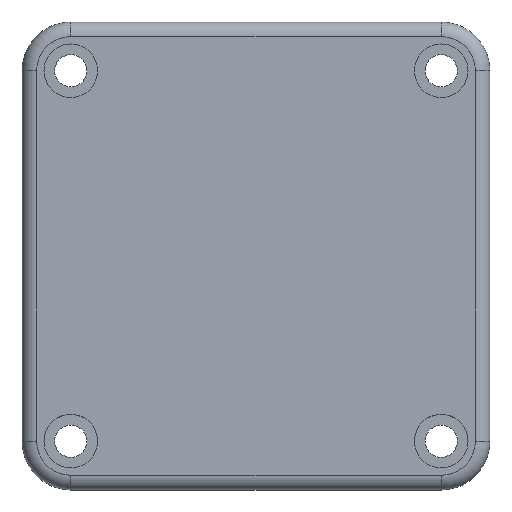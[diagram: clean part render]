
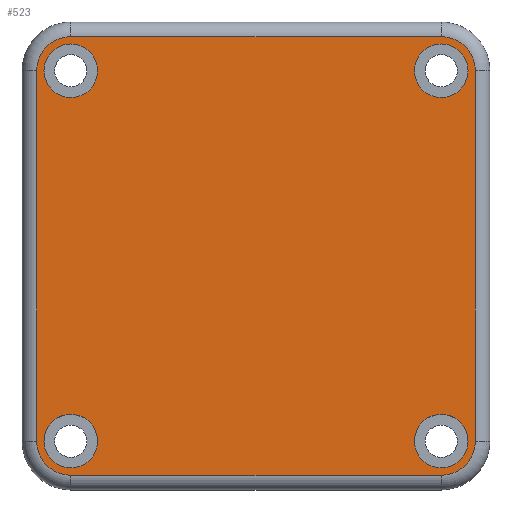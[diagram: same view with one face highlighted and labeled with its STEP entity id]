
A CAD part, top view. The second image highlights one B-rep face of the part: STEP entity #523.
In plain terms, the highlighted planar face has unit normal (0, 0, 1).
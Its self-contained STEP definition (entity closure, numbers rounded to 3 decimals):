
#16=FACE_BOUND('',#167,.T.);
#17=FACE_BOUND('',#168,.T.);
#18=FACE_BOUND('',#169,.T.);
#19=FACE_BOUND('',#170,.T.);
#32=PLANE('',#599);
#42=LINE('',#846,#72);
#44=LINE('',#858,#74);
#46=LINE('',#870,#76);
#48=LINE('',#879,#78);
#72=VECTOR('',#662,10.);
#74=VECTOR('',#676,10.);
#76=VECTOR('',#690,10.);
#78=VECTOR('',#702,10.);
#131=FACE_OUTER_BOUND('',#166,.T.);
#166=EDGE_LOOP('',(#410,#411,#412,#413,#414,#415,#416,#417));
#167=EDGE_LOOP('',(#418));
#168=EDGE_LOOP('',(#419));
#169=EDGE_LOOP('',(#420));
#170=EDGE_LOOP('',(#421));
#206=CIRCLE('',#573,7.);
#209=CIRCLE('',#578,7.);
#213=CIRCLE('',#584,7.);
#217=CIRCLE('',#590,7.);
#221=CIRCLE('',#600,5.5);
#222=CIRCLE('',#601,5.5);
#223=CIRCLE('',#602,5.5);
#224=CIRCLE('',#603,5.5);
#245=VERTEX_POINT('',#834);
#248=VERTEX_POINT('',#839);
#250=VERTEX_POINT('',#844);
#252=VERTEX_POINT('',#850);
#254=VERTEX_POINT('',#856);
#256=VERTEX_POINT('',#862);
#258=VERTEX_POINT('',#868);
#260=VERTEX_POINT('',#874);
#266=VERTEX_POINT('',#900);
#267=VERTEX_POINT('',#902);
#268=VERTEX_POINT('',#904);
#269=VERTEX_POINT('',#906);
#293=EDGE_CURVE('',#248,#245,#206,.T.);
#295=EDGE_CURVE('',#250,#248,#42,.T.);
#298=EDGE_CURVE('',#252,#250,#209,.T.);
#301=EDGE_CURVE('',#254,#252,#44,.T.);
#304=EDGE_CURVE('',#256,#254,#213,.T.);
#307=EDGE_CURVE('',#258,#256,#46,.T.);
#310=EDGE_CURVE('',#260,#258,#217,.T.);
#312=EDGE_CURVE('',#245,#260,#48,.T.);
#323=EDGE_CURVE('',#266,#266,#221,.T.);
#324=EDGE_CURVE('',#267,#267,#222,.T.);
#325=EDGE_CURVE('',#268,#268,#223,.T.);
#326=EDGE_CURVE('',#269,#269,#224,.T.);
#410=ORIENTED_EDGE('',*,*,#293,.F.);
#411=ORIENTED_EDGE('',*,*,#295,.F.);
#412=ORIENTED_EDGE('',*,*,#298,.F.);
#413=ORIENTED_EDGE('',*,*,#301,.F.);
#414=ORIENTED_EDGE('',*,*,#304,.F.);
#415=ORIENTED_EDGE('',*,*,#307,.F.);
#416=ORIENTED_EDGE('',*,*,#310,.F.);
#417=ORIENTED_EDGE('',*,*,#312,.F.);
#418=ORIENTED_EDGE('',*,*,#323,.T.);
#419=ORIENTED_EDGE('',*,*,#324,.T.);
#420=ORIENTED_EDGE('',*,*,#325,.T.);
#421=ORIENTED_EDGE('',*,*,#326,.T.);
#523=ADVANCED_FACE('',(#131,#16,#17,#18,#19),#32,.T.);
#573=AXIS2_PLACEMENT_3D('',#841,#656,#657);
#578=AXIS2_PLACEMENT_3D('',#852,#668,#669);
#584=AXIS2_PLACEMENT_3D('',#864,#682,#683);
#590=AXIS2_PLACEMENT_3D('',#876,#696,#697);
#599=AXIS2_PLACEMENT_3D('',#899,#723,#724);
#600=AXIS2_PLACEMENT_3D('',#901,#725,#726);
#601=AXIS2_PLACEMENT_3D('',#903,#727,#728);
#602=AXIS2_PLACEMENT_3D('',#905,#729,#730);
#603=AXIS2_PLACEMENT_3D('',#907,#731,#732);
#656=DIRECTION('center_axis',(0.,0.,-1.));
#657=DIRECTION('ref_axis',(0.707,0.707,0.));
#662=DIRECTION('',(1.,0.,0.));
#668=DIRECTION('center_axis',(0.,0.,-1.));
#669=DIRECTION('ref_axis',(-0.707,0.707,0.));
#676=DIRECTION('',(0.,1.,0.));
#682=DIRECTION('center_axis',(0.,0.,-1.));
#683=DIRECTION('ref_axis',(-0.707,-0.707,0.));
#690=DIRECTION('',(-1.,0.,0.));
#696=DIRECTION('center_axis',(0.,0.,-1.));
#697=DIRECTION('ref_axis',(0.707,-0.707,0.));
#702=DIRECTION('',(0.,-1.,0.));
#723=DIRECTION('center_axis',(0.,0.,1.));
#724=DIRECTION('ref_axis',(1.,0.,0.));
#725=DIRECTION('center_axis',(0.,0.,-1.));
#726=DIRECTION('ref_axis',(1.,0.,0.));
#727=DIRECTION('center_axis',(0.,0.,-1.));
#728=DIRECTION('ref_axis',(0.,-1.,0.));
#729=DIRECTION('center_axis',(0.,0.,-1.));
#730=DIRECTION('ref_axis',(-1.,0.,0.));
#731=DIRECTION('center_axis',(0.,0.,-1.));
#732=DIRECTION('ref_axis',(0.,1.,0.));
#834=CARTESIAN_POINT('',(45.,38.,12.));
#839=CARTESIAN_POINT('',(38.,45.,12.));
#841=CARTESIAN_POINT('Origin',(38.,38.,12.));
#844=CARTESIAN_POINT('',(-38.,45.,12.));
#846=CARTESIAN_POINT('',(19.,45.,12.));
#850=CARTESIAN_POINT('',(-45.,38.,12.));
#852=CARTESIAN_POINT('Origin',(-38.,38.,12.));
#856=CARTESIAN_POINT('',(-45.,-38.,12.));
#858=CARTESIAN_POINT('',(-45.,19.,12.));
#862=CARTESIAN_POINT('',(-38.,-45.,12.));
#864=CARTESIAN_POINT('Origin',(-38.,-38.,12.));
#868=CARTESIAN_POINT('',(38.,-45.,12.));
#870=CARTESIAN_POINT('',(-19.,-45.,12.));
#874=CARTESIAN_POINT('',(45.,-38.,12.));
#876=CARTESIAN_POINT('Origin',(38.,-38.,12.));
#879=CARTESIAN_POINT('',(45.,-19.,12.));
#899=CARTESIAN_POINT('Origin',(0.,0.,12.));
#900=CARTESIAN_POINT('',(32.5,38.,12.));
#901=CARTESIAN_POINT('Origin',(38.,38.,12.));
#902=CARTESIAN_POINT('',(38.,-32.5,12.));
#903=CARTESIAN_POINT('Origin',(38.,-38.,12.));
#904=CARTESIAN_POINT('',(-32.5,-38.,12.));
#905=CARTESIAN_POINT('Origin',(-38.,-38.,12.));
#906=CARTESIAN_POINT('',(-38.,32.5,12.));
#907=CARTESIAN_POINT('Origin',(-38.,38.,12.));
